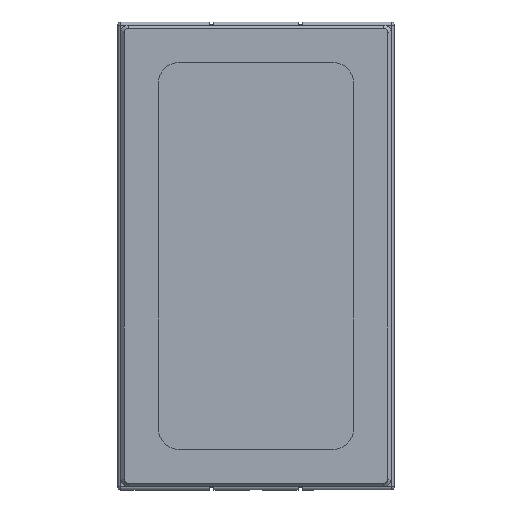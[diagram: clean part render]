
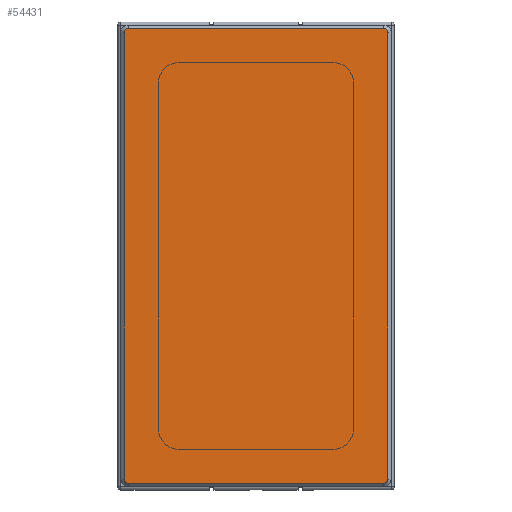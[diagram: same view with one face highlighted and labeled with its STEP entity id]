
A CAD part, top view. The second image highlights one B-rep face of the part: STEP entity #54431.
In plain terms, the highlighted planar face has unit normal (0, 0, 1).
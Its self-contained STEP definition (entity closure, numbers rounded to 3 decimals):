
#3595=PLANE('',#57718);
#5226=FACE_OUTER_BOUND('',#8453,.T.);
#8453=EDGE_LOOP('',(#37175,#37176,#37177,#37178,#37179,#37180,#37181,#37182));
#12118=LINE('',#77027,#16782);
#12122=LINE('',#77039,#16786);
#12123=LINE('',#77042,#16787);
#12127=LINE('',#77053,#16791);
#16782=VECTOR('',#62671,1000.);
#16786=VECTOR('',#62685,1000.);
#16787=VECTOR('',#62688,1000.);
#16791=VECTOR('',#62702,1000.);
#21436=CIRCLE('',#57707,4.);
#21437=CIRCLE('',#57709,4.);
#21438=CIRCLE('',#57713,4.);
#21439=CIRCLE('',#57715,4.);
#23287=VERTEX_POINT('',#77023);
#23288=VERTEX_POINT('',#77025);
#23289=VERTEX_POINT('',#77029);
#23290=VERTEX_POINT('',#77033);
#23291=VERTEX_POINT('',#77037);
#23292=VERTEX_POINT('',#77041);
#23293=VERTEX_POINT('',#77045);
#23294=VERTEX_POINT('',#77049);
#28713=EDGE_CURVE('',#23287,#23288,#12118,.T.);
#28715=EDGE_CURVE('',#23288,#23289,#21436,.T.);
#28716=EDGE_CURVE('',#23290,#23287,#21437,.T.);
#28719=EDGE_CURVE('',#23289,#23291,#12122,.T.);
#28720=EDGE_CURVE('',#23292,#23290,#12123,.T.);
#28723=EDGE_CURVE('',#23291,#23293,#21438,.T.);
#28724=EDGE_CURVE('',#23294,#23292,#21439,.T.);
#28726=EDGE_CURVE('',#23293,#23294,#12127,.T.);
#37175=ORIENTED_EDGE('',*,*,#28723,.T.);
#37176=ORIENTED_EDGE('',*,*,#28726,.T.);
#37177=ORIENTED_EDGE('',*,*,#28724,.T.);
#37178=ORIENTED_EDGE('',*,*,#28720,.T.);
#37179=ORIENTED_EDGE('',*,*,#28716,.T.);
#37180=ORIENTED_EDGE('',*,*,#28713,.T.);
#37181=ORIENTED_EDGE('',*,*,#28715,.T.);
#37182=ORIENTED_EDGE('',*,*,#28719,.T.);
#54431=ADVANCED_FACE('',(#5226),#3595,.T.);
#57707=AXIS2_PLACEMENT_3D('',#77031,#62675,#62676);
#57709=AXIS2_PLACEMENT_3D('',#77034,#62679,#62680);
#57713=AXIS2_PLACEMENT_3D('',#77047,#62693,#62694);
#57715=AXIS2_PLACEMENT_3D('',#77050,#62697,#62698);
#57718=AXIS2_PLACEMENT_3D('',#77055,#62705,#62706);
#62671=DIRECTION('',(-1.,0.,0.));
#62675=DIRECTION('center_axis',(0.,0.,1.));
#62676=DIRECTION('ref_axis',(1.,0.,0.));
#62679=DIRECTION('center_axis',(0.,0.,1.));
#62680=DIRECTION('ref_axis',(1.,0.,0.));
#62685=DIRECTION('',(0.,-1.,0.));
#62688=DIRECTION('',(0.,1.,0.));
#62693=DIRECTION('center_axis',(0.,0.,1.));
#62694=DIRECTION('ref_axis',(1.,0.,0.));
#62697=DIRECTION('center_axis',(0.,0.,1.));
#62698=DIRECTION('ref_axis',(1.,0.,0.));
#62702=DIRECTION('',(1.,0.,0.));
#62705=DIRECTION('center_axis',(0.,0.,1.));
#62706=DIRECTION('ref_axis',(1.,0.,0.));
#77023=CARTESIAN_POINT('',(-1075.55,184.138,443.5));
#77025=CARTESIAN_POINT('',(-1315.55,184.138,443.5));
#77027=CARTESIAN_POINT('',(-1315.55,184.138,443.5));
#77029=CARTESIAN_POINT('',(-1319.55,180.138,443.5));
#77031=CARTESIAN_POINT('Origin',(-1315.55,180.138,443.5));
#77033=CARTESIAN_POINT('',(-1071.55,180.138,443.5));
#77034=CARTESIAN_POINT('Origin',(-1075.55,180.138,443.5));
#77037=CARTESIAN_POINT('',(-1319.55,-239.862,443.5));
#77039=CARTESIAN_POINT('',(-1319.55,-239.862,443.5));
#77041=CARTESIAN_POINT('',(-1071.55,-239.862,443.5));
#77042=CARTESIAN_POINT('',(-1071.55,180.138,443.5));
#77045=CARTESIAN_POINT('',(-1315.55,-243.862,443.5));
#77047=CARTESIAN_POINT('Origin',(-1315.55,-239.862,443.5));
#77049=CARTESIAN_POINT('',(-1075.55,-243.862,443.5));
#77050=CARTESIAN_POINT('Origin',(-1075.55,-239.862,443.5));
#77053=CARTESIAN_POINT('',(-1075.55,-243.862,443.5));
#77055=CARTESIAN_POINT('Origin',(-1123.55,132.138,443.5));
